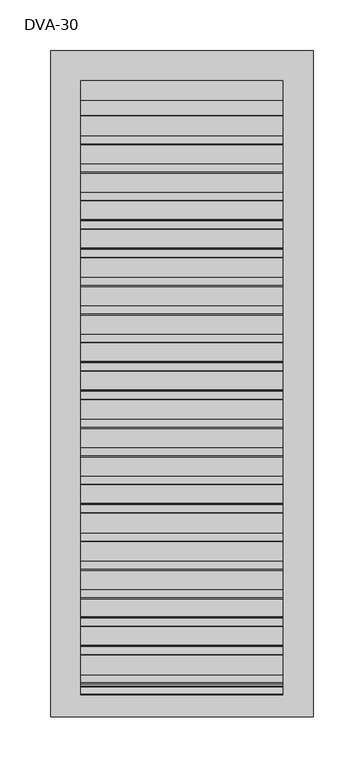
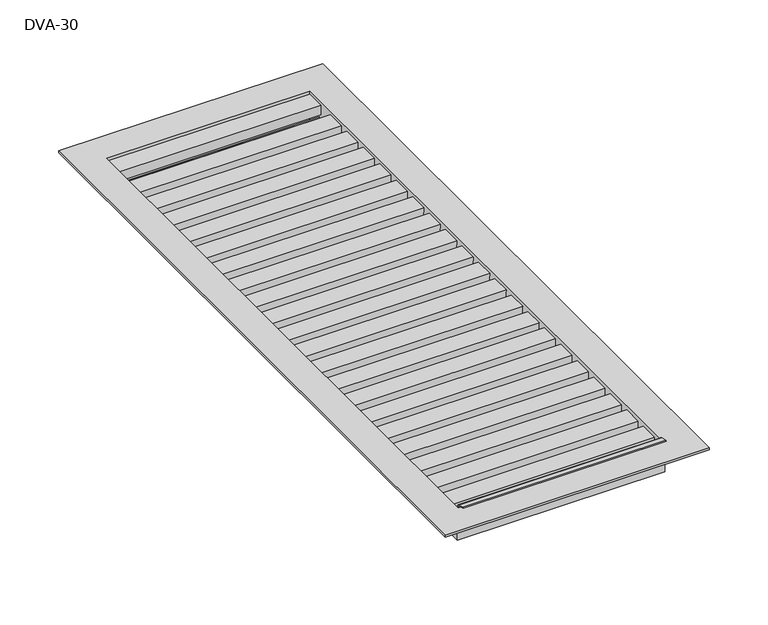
"""IFC4 building model written with IfcOpenShell, lengths in millimetres: air terminal geometry, AIR_FB_Pierce-proof grille DVA-30_SMA : DVA-30."""

from ifc_helpers import new_model, si_unit, point, frame, frame_2d, origin, place, context, project, spatial, polyline, circle_curve, trimmed, segment, composite_curve, outline, extrude, faceted_brep, source, transform, mapped, element, save


def dva_30_cbf1cae8(model_context):
    return source(origin(), model_context, "Body", "SolidModel", [
        extrude(outline(polyline([(264.9, -1.2), (265.8578059, -23.9), (282.8569161, -23.9), (282.4771693, -14.9), (283.4780591, -14.9), (283.9, -24.9), (264.9, -24.9), (263.9421941, -2.2), (246.9430839, -2.2), (247.3228307, -11.2), (246.3219409, -11.2), (245.9, -1.2), (264.9, -1.2)])), frame((-100.0, 0.0, 0.0), z_axis=(1.0, 0.0, 0.0), x_axis=(0.0, 1.0, 0.0)), (0.0, 0.0, 1.0), 200.0),
        extrude(outline(polyline([(236.8, -1.25), (237.7578059, -23.95), (254.7569161, -23.95), (254.3771693, -14.95), (255.3780591, -14.95), (255.8, -24.95), (236.8, -24.95), (235.8421941, -2.25), (218.8430839, -2.25), (219.2228307, -11.25), (218.2219409, -11.25), (217.8, -1.25), (236.8, -1.25)])), frame((-100.0, 0.0, 0.0), z_axis=(1.0, 0.0, 0.0), x_axis=(0.0, 1.0, 0.0)), (0.0, 0.0, 1.0), 200.0),
        extrude(outline(polyline([(208.7, -1.3), (209.6578059, -24.0), (226.6569161, -24.0), (226.2771693, -15.0), (227.2780591, -15.0), (227.7, -25.0), (208.7, -25.0), (207.7421941, -2.3), (190.7430839, -2.3), (191.1228307, -11.3), (190.1219409, -11.3), (189.7, -1.3), (208.7, -1.3)])), frame((-100.0, 0.0, 0.0), z_axis=(1.0, 0.0, 0.0), x_axis=(0.0, 1.0, 0.0)), (0.0, 0.0, 1.0), 200.0),
        extrude(outline(polyline([(300.0, -1.15), (300.0, -24.85), (299.0421941, -24.85), (299.0421941, -2.15), (282.0430839, -2.15), (282.4228307, -11.15), (281.4219409, -11.15), (281.0, -1.15), (300.0, -1.15)])), frame((-100.0, 0.0, 0.0), z_axis=(1.0, 0.0, 0.0), x_axis=(0.0, 1.0, 0.0)), (0.0, 0.0, 1.0), 200.0),
        extrude(outline(polyline([(180.6, -1.35), (181.5578059, -24.05), (198.5569161, -24.05), (198.1771693, -15.05), (199.1780591, -15.05), (199.6, -25.05), (180.6, -25.05), (179.6421941, -2.35), (162.6430839, -2.35), (163.0228307, -11.35), (162.0219409, -11.35), (161.6, -1.35), (180.6, -1.35)])), frame((-100.0, 0.0, 0.0), z_axis=(1.0, 0.0, 0.0), x_axis=(0.0, 1.0, 0.0)), (0.0, 0.0, 1.0), 200.0),
        extrude(outline(polyline([(152.5, -1.4), (153.4578059, -24.1), (170.4569161, -24.1), (170.0771693, -15.1), (171.0780591, -15.1), (171.5, -25.1), (152.5, -25.1), (151.5421941, -2.4), (134.5430839, -2.4), (134.9228307, -11.4), (133.9219409, -11.4), (133.5, -1.4), (152.5, -1.4)])), frame((-100.0, 0.0, 0.0), z_axis=(1.0, 0.0, 0.0), x_axis=(0.0, 1.0, 0.0)), (0.0, 0.0, 1.0), 200.0),
        extrude(outline(polyline([(124.4, -1.45), (125.3578059, -24.15), (142.3569161, -24.15), (141.9771693, -15.15), (142.9780591, -15.15), (143.4, -25.15), (124.4, -25.15), (123.4421941, -2.45), (106.4430839, -2.45), (106.8228307, -11.45), (105.8219409, -11.45), (105.4, -1.45), (124.4, -1.45)])), frame((-100.0, 0.0, 0.0), z_axis=(1.0, 0.0, 0.0), x_axis=(0.0, 1.0, 0.0)), (0.0, 0.0, 1.0), 200.0),
        extrude(outline(polyline([(96.3, -1.5), (97.2578059, -24.2), (114.2569161, -24.2), (113.8771693, -15.2), (114.8780591, -15.2), (115.3, -25.2), (96.3, -25.2), (95.3421941, -2.5), (78.3430839, -2.5), (78.7228307, -11.5), (77.7219409, -11.5), (77.3, -1.5), (96.3, -1.5)])), frame((-100.0, 0.0, 0.0), z_axis=(1.0, 0.0, 0.0), x_axis=(0.0, 1.0, 0.0)), (0.0, 0.0, 1.0), 200.0),
        extrude(outline(polyline([(68.2, -1.55), (69.1578059, -24.25), (86.1569161, -24.25), (85.7771693, -15.25), (86.7780591, -15.25), (87.2, -25.25), (68.2, -25.25), (67.2421941, -2.55), (50.2430839, -2.55), (50.6228307, -11.55), (49.6219409, -11.55), (49.2, -1.55), (68.2, -1.55)])), frame((-100.0, 0.0, 0.0), z_axis=(1.0, 0.0, 0.0), x_axis=(0.0, 1.0, 0.0)), (0.0, 0.0, 1.0), 200.0),
        extrude(outline(polyline([(40.1, -1.6), (41.0578059, -24.3), (58.0569161, -24.3), (57.6771693, -15.3), (58.6780591, -15.3), (59.1, -25.3), (40.1, -25.3), (39.1421941, -2.6), (22.1430839, -2.6), (22.5228307, -11.6), (21.5219409, -11.6), (21.1, -1.6), (40.1, -1.6)])), frame((-100.0, 0.0, 0.0), z_axis=(1.0, 0.0, 0.0), x_axis=(0.0, 1.0, 0.0)), (0.0, 0.0, 1.0), 200.0),
        extrude(outline(polyline([(12.0, -1.65), (12.9578059, -24.35), (29.9569161, -24.35), (29.5771693, -15.35), (30.5780591, -15.35), (31.0, -25.35), (12.0, -25.35), (11.0421941, -2.65), (-5.9569161, -2.65), (-5.5771693, -11.65), (-6.5780591, -11.65), (-7.0, -1.65), (12.0, -1.65)])), frame((-100.0, 0.0, 0.0), z_axis=(1.0, 0.0, 0.0), x_axis=(0.0, 1.0, 0.0)), (0.0, 0.0, 1.0), 200.0),
        extrude(outline(polyline([(-16.1, -1.7), (-15.1421941, -24.4), (1.8569161, -24.4), (1.4771693, -15.4), (2.4780591, -15.4), (2.9, -25.4), (-16.1, -25.4), (-17.0578059, -2.7), (-34.0569161, -2.7), (-33.6771693, -11.7), (-34.6780591, -11.7), (-35.1, -1.7), (-16.1, -1.7)])), frame((-100.0, 0.0, 0.0), z_axis=(1.0, 0.0, 0.0), x_axis=(0.0, 1.0, 0.0)), (0.0, 0.0, 1.0), 200.0),
        extrude(outline(polyline([(-44.2, -1.75), (-43.2421941, -24.45), (-26.2430839, -24.45), (-26.6228307, -15.45), (-25.6219409, -15.45), (-25.2, -25.45), (-44.2, -25.45), (-45.1578059, -2.75), (-62.1569161, -2.75), (-61.7771693, -11.75), (-62.7780591, -11.75), (-63.2, -1.75), (-44.2, -1.75)])), frame((-100.0, 0.0, 0.0), z_axis=(1.0, 0.0, 0.0), x_axis=(0.0, 1.0, 0.0)), (0.0, 0.0, 1.0), 200.0),
        extrude(outline(polyline([(-72.3, -1.8), (-71.3421941, -24.5), (-54.3430839, -24.5), (-54.7228307, -15.5), (-53.7219409, -15.5), (-53.3, -25.5), (-72.3, -25.5), (-73.2578059, -2.8), (-90.2569161, -2.8), (-89.8771693, -11.8), (-90.8780591, -11.8), (-91.3, -1.8), (-72.3, -1.8)])), frame((-100.0, 0.0, 0.0), z_axis=(1.0, 0.0, 0.0), x_axis=(0.0, 1.0, 0.0)), (0.0, 0.0, 1.0), 200.0),
        extrude(outline(polyline([(-100.4, -1.85), (-99.4421941, -24.55), (-82.4430839, -24.55), (-82.8228307, -15.55), (-81.8219409, -15.55), (-81.4, -25.55), (-100.4, -25.55), (-101.3578059, -2.85), (-118.3569161, -2.85), (-117.9771693, -11.85), (-118.9780591, -11.85), (-119.4, -1.85), (-100.4, -1.85)])), frame((-100.0, 0.0, 0.0), z_axis=(1.0, 0.0, 0.0), x_axis=(0.0, 1.0, 0.0)), (0.0, 0.0, 1.0), 200.0),
        extrude(outline(polyline([(-128.5, -1.9), (-127.5421941, -24.6), (-110.5430839, -24.6), (-110.9228307, -15.6), (-109.9219409, -15.6), (-109.5, -25.6), (-128.5, -25.6), (-129.4578059, -2.9), (-146.4569161, -2.9), (-146.0771693, -11.9), (-147.0780591, -11.9), (-147.5, -1.9), (-128.5, -1.9)])), frame((-100.0, 0.0, 0.0), z_axis=(1.0, 0.0, 0.0), x_axis=(0.0, 1.0, 0.0)), (0.0, 0.0, 1.0), 200.0),
        extrude(outline(polyline([(-156.6, -1.95), (-155.6421941, -24.65), (-138.6430839, -24.65), (-139.0228307, -15.65), (-138.0219409, -15.65), (-137.6, -25.65), (-156.6, -25.65), (-157.5578059, -2.95), (-174.5569161, -2.95), (-174.1771693, -11.95), (-175.1780591, -11.95), (-175.6, -1.95), (-156.6, -1.95)])), frame((-100.0, 0.0, 0.0), z_axis=(1.0, 0.0, 0.0), x_axis=(0.0, 1.0, 0.0)), (0.0, 0.0, 1.0), 200.0),
        extrude(outline(polyline([(-184.7, -2.0), (-183.7421941, -24.7), (-166.7430839, -24.7), (-167.1228307, -15.7), (-166.1219409, -15.7), (-165.7, -25.7), (-184.7, -25.7), (-185.6578059, -3.0), (-202.6569161, -3.0), (-202.2771693, -12.0), (-203.2780591, -12.0), (-203.7, -2.0), (-184.7, -2.0)])), frame((-100.0, 0.0, 0.0), z_axis=(1.0, 0.0, 0.0), x_axis=(0.0, 1.0, 0.0)), (0.0, 0.0, 1.0), 200.0),
        extrude(outline(polyline([(-212.8, -2.05), (-211.8421941, -24.75), (-194.8430839, -24.75), (-195.2228307, -15.75), (-194.2219409, -15.75), (-193.8, -25.75), (-212.8, -25.75), (-213.7578059, -3.05), (-230.7569161, -3.05), (-230.3771693, -12.05), (-231.3780591, -12.05), (-231.8, -2.05), (-212.8, -2.05)])), frame((-100.0, 0.0, 0.0), z_axis=(1.0, 0.0, 0.0), x_axis=(0.0, 1.0, 0.0)), (0.0, 0.0, 1.0), 200.0),
        extrude(outline(polyline([(-240.9, -2.1), (-239.9421941, -24.8), (-222.9430839, -24.8), (-223.3228307, -15.8), (-222.3219409, -15.8), (-221.9, -25.8), (-240.9, -25.8), (-241.8578059, -3.1), (-258.8569161, -3.1), (-258.4771693, -12.1), (-259.4780591, -12.1), (-259.9, -2.1), (-240.9, -2.1)])), frame((-100.0, 0.0, 0.0), z_axis=(1.0, 0.0, 0.0), x_axis=(0.0, 1.0, 0.0)), (0.0, 0.0, 1.0), 200.0),
        extrude(outline(composite_curve([segment(polyline([(-298.1769167, -22.8895129), (-300.0, 3.1817934)]), True, "CONTINUOUS"), segment(trimmed(circle_curve(frame_2d((-300.9975641, 3.1120369)), 1.0), [point((-300.0, 3.1817934))], [point((-300.7219267, 4.0732986))], True, "CARTESIAN"), True, "CONTINUOUS"), segment(polyline([(-300.7219267, 4.0732986), (-308.0271166, 6.1680281), (-307.7514792, 7.1292898), (-300.4462893, 5.0345603)]), True, "CONTINUOUS"), segment(trimmed(circle_curve(frame_2d((-300.9975641, 3.1120369)), 2.0), [point((-300.4462893, 5.0345603))], [point((-299.002436, 3.2515499))], False, "CARTESIAN"), True, "CONTINUOUS"), segment(polyline([(-299.002436, 3.2515499), (-297.1793526, -22.8197565)]), True, "CONTINUOUS"), segment(trimmed(circle_curve(frame_2d((-296.1817886, -22.75)), 1.0), [point((-297.1793526, -22.8197565))], [point((-296.1817886, -23.75))], True, "CARTESIAN"), True, "CONTINUOUS"), segment(polyline([(-296.1817886, -23.75), (-281.0467886, -23.75)]), True, "CONTINUOUS"), segment(trimmed(circle_curve(frame_2d((-281.0467886, -22.75)), 1.0), [point((-281.0467886, -23.75))], [point((-280.0492245, -22.6802435))], True, "CARTESIAN"), True, "CONTINUOUS"), segment(polyline([(-280.0492245, -22.6802435), (-280.5375198, -15.6972952), (-279.5399558, -15.6275387), (-279.0516605, -22.6104871)]), True, "CONTINUOUS"), segment(trimmed(circle_curve(frame_2d((-281.0467886, -22.75)), 2.0), [point((-279.0516605, -22.6104871))], [point((-281.0467886, -24.75))], False, "CARTESIAN"), True, "CONTINUOUS"), segment(polyline([(-281.0467886, -24.75), (-296.1817886, -24.75)]), True, "CONTINUOUS"), segment(trimmed(circle_curve(frame_2d((-296.1817886, -22.75)), 2.0), [point((-296.1817886, -24.75))], [point((-298.1769167, -22.8895129))], False, "CARTESIAN"), True, "CONTINUOUS")], self_intersect=False)), frame((-100.0, 0.0, 0.0), z_axis=(1.0, 0.0, 0.0), x_axis=(0.0, 1.0, 0.0)), (0.0, 0.0, 1.0), 200.0),
        extrude(outline(polyline([(-269.0, -2.15), (-268.0421941, -24.85), (-251.0430839, -24.85), (-251.4228307, -15.85), (-250.4219409, -15.85), (-250.0, -25.85), (-269.0, -25.85), (-269.9578059, -3.15), (-286.9569161, -3.15), (-286.5771693, -12.15), (-287.5780591, -12.15), (-288.0, -2.15), (-269.0, -2.15)])), frame((-100.0, 0.0, 0.0), z_axis=(1.0, 0.0, 0.0), x_axis=(0.0, 1.0, 0.0)), (0.0, 0.0, 1.0), 200.0),
        faceted_brep([(130.0, 330.0, 0.0), (130.0, 330.0, 2.0), (130.0, -330.0, 2.0), (130.0, -330.0, 0.0), (102.0, 302.0, -30.0), (102.0, 302.0, 0.0), (102.0, -302.0, 0.0), (102.0, -302.0, -30.0), (100.0, 300.0, 2.0), (100.0, 300.0, -30.0), (100.0, -300.0, -30.0), (100.0, -300.0, 2.0), (-130.0, -330.0, 2.0), (-130.0, -330.0, 0.0), (-102.0, -302.0, 0.0), (-102.0, -302.0, -30.0), (-100.0, -300.0, -30.0), (-100.0, -300.0, 2.0), (-130.0, 330.0, 2.0), (-130.0, 330.0, 0.0), (-102.0, 302.0, 0.0), (-102.0, 302.0, -30.0), (-100.0, 300.0, -30.0), (-100.0, 300.0, 2.0)], [[[0, 1, 2, 3]], [[4, 5, 6, 7]], [[8, 9, 10, 11]], [[3, 2, 12, 13]], [[7, 6, 14, 15]], [[11, 10, 16, 17]], [[13, 12, 18, 19]], [[15, 14, 20, 21]], [[17, 16, 22, 23]], [[1, 18, 12, 2], [11, 17, 23, 8]], [[19, 18, 1, 0]], [[3, 13, 19, 0], [5, 20, 14, 6]], [[21, 20, 5, 4]], [[7, 15, 21, 4], [9, 22, 16, 10]], [[23, 22, 9, 8]]]),
    ])


if __name__ == "__main__":
    model = new_model("IFC4")
    model_context = context("Model", 3, world=origin())
    ifc_project = project(units=[si_unit("LENGTHUNIT", "METRE", prefix="MILLI")], contexts=[model_context])
    site = spatial("IfcSite", under=ifc_project)
    building = spatial("IfcBuilding", under=site)
    placement = place(None, origin())
    dva_30_shape = dva_30_cbf1cae8(model_context)
    element("IfcAirTerminal", 1, ObjectType="AIR_FB_Pierce-proof grille DVA-30_SMA : DVA-30", at=placement, inside=building, context=model_context, shape_type="MappedRepresentation", body=[
        mapped(dva_30_shape, transform((0.0, 0.0, 0.0), x_axis=(1.0, 0.0, 0.0), y_axis=(0.0, 1.0, 0.0), z_axis=(0.0, 0.0, 1.0))),
    ])
    save(model, "model.ifc")
